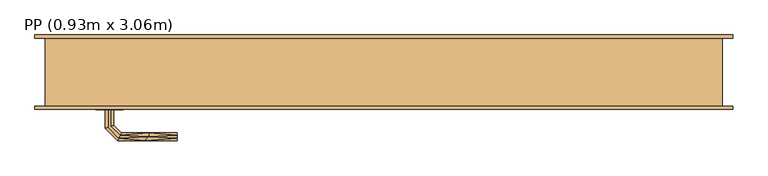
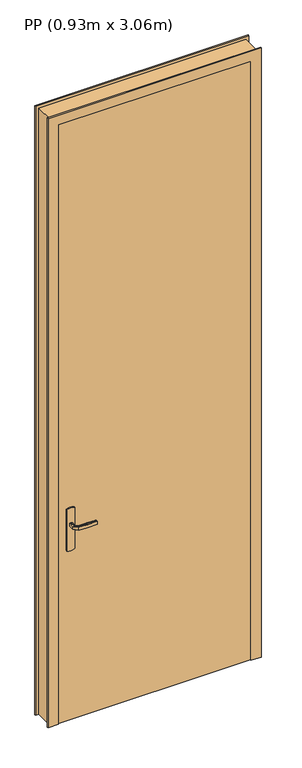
"""IFC4 building model written with IfcOpenShell, lengths in millimetres: door geometry, PP (0.93m x 3.06m)."""

from ifc_helpers import new_model, si_unit, frame, origin, origin_with_axes, place, context, project, spatial, polyline, outline, extrude, faceted_brep, source, transform, mapped, element, save


def pp_0_93m_x_3_06m_2ff7c40f(model_context):
    return source(origin(), model_context, "Body", "SolidModel", [
        extrude(outline(polyline([(35.0, 40.0), (965.0, 40.0), (965.0, 0.0), (35.0, 0.0), (35.0, 40.0)])), origin_with_axes(), (0.0, 0.0, 1.0), 3060.0),
        faceted_brep([(92.9747013, -5.0, 1007.7804408), (97.0252987, -5.0, 1007.7804408), (101.0, -5.0, 1007.0), (101.0, -5.0, 993.0), (97.0252987, -5.0, 992.2195592), (92.9747013, -5.0, 992.2195592), (89.0, -5.0, 993.0), (89.0, -5.0, 1007.0), (89.0, -32.6509507, 1007.0), (92.9747013, -31.0045755, 1007.7804408), (109.0235852, -47.0534593, 1007.7804408), (110.7013975, -43.002862, 1007.7804408), (97.0252987, -29.3267632, 1007.7804408), (101.0, -27.680388, 1007.0), (101.0, -27.680388, 993.0), (97.0252987, -29.3267632, 992.2195592), (110.7013975, -43.002862, 992.2195592), (109.0235852, -47.0534593, 992.2195592), (92.9747013, -31.0045755, 992.2195592), (89.0, -32.6509507, 993.0), (107.37721, -51.0281607, 1007.0), (112.3477727, -39.0281607, 1007.0), (112.3477727, -39.0281607, 993.0), (107.37721, -51.0281607, 993.0), (195.0186406, -51.0281607, 993.0), (195.0186406, -47.0534593, 992.2195592), (195.0186406, -43.002862, 992.2195592), (195.0186406, -39.0281607, 993.0), (195.0186406, -39.0281607, 1007.0), (195.0186406, -43.002862, 1007.7804408), (195.0186406, -47.0534593, 1007.7804408), (195.0186406, -51.0281607, 1007.0), (147.3076972, -51.0281607, 1007.0), (152.8600191, -45.0281607, 1007.8786868), (153.6832067, -39.0281607, 1007.0), (153.6832067, -39.0281607, 993.0), (152.8600189, -45.0281608, 992.1213132), (147.3077002, -51.0281607, 993.0)], [[[0, 1, 2, 3, 4, 5, 6, 7]], [[8, 9, 0, 7]], [[9, 10, 11, 12, 1, 0]], [[12, 13, 2, 1]], [[3, 2, 13, 14]], [[14, 15, 4, 3]], [[15, 16, 17, 18, 5, 4]], [[18, 19, 6, 5]], [[7, 6, 19, 8]], [[20, 10, 9, 8]], [[11, 21, 13, 12]], [[14, 13, 21, 22]], [[22, 16, 15, 14]], [[17, 23, 19, 18]], [[8, 19, 23, 20]], [[24, 25, 26, 27, 28, 29, 30, 31]], [[32, 30, 33]], [[31, 30, 32]], [[10, 20, 32]], [[33, 34, 11]], [[21, 11, 34]], [[34, 29, 28]], [[30, 29, 33]], [[29, 34, 33]], [[10, 32, 33]], [[10, 33, 11]], [[22, 21, 34, 28, 27, 35]], [[35, 26, 36]], [[37, 36, 25]], [[22, 35, 16]], [[35, 27, 26]], [[24, 37, 25]], [[23, 17, 37]], [[37, 17, 36]], [[17, 16, 36]], [[16, 35, 36]], [[25, 36, 26]], [[20, 23, 37, 24, 31, 32]]]),
        extrude(outline(polyline([(866.0039831, 105.3527618), (870.0, 115.0), (1080.0, 115.0), (1083.9960169, 105.3527618), (1085.3589838, 95.0), (1083.9960169, 84.6472382), (1080.0, 75.0), (870.0, 75.0), (866.0039831, 84.6472382), (864.6410162, 95.0), (866.0039831, 105.3527618)])), frame((0.0, -5.0, 0.0), z_axis=(0.0, 1.0, 0.0), x_axis=(0.0, 0.0, 1.0)), (0.0, 0.0, 1.0), 5.0),
        faceted_brep([(92.9747013, 45.0, 1007.7804408), (89.0, 45.0, 1007.0), (89.0, 45.0, 993.0), (92.9747013, 45.0, 992.2195592), (97.0252987, 45.0, 992.2195592), (101.0, 45.0, 993.0), (101.0, 45.0, 1007.0), (97.0252987, 45.0, 1007.7804408), (101.0, 67.4852045, 993.0), (101.0, 67.4852045, 1007.0), (97.0252987, 69.1315797, 1007.7804408), (110.8389062, 82.9451872, 1007.7804408), (109.1610938, 86.9957845, 1007.7804408), (92.9747013, 70.8093921, 1007.7804408), (89.0, 72.4557673, 1007.0), (89.0, 72.4557673, 993.0), (92.9747013, 70.8093921, 992.2195592), (109.1610938, 86.9957845, 992.2195592), (110.8389062, 82.9451872, 992.2195592), (97.0252987, 69.1315797, 992.2195592), (112.4852814, 78.9704859, 993.0), (112.4852814, 78.9704859, 1007.0), (107.5147186, 90.9704859, 1007.0), (107.5147186, 90.9704859, 993.0), (195.0457837, 78.9704859, 993.0), (195.0457837, 82.9451872, 992.2195592), (195.0457837, 86.9957845, 992.2195592), (195.0457837, 90.9704859, 993.0), (195.0457837, 90.9704859, 1007.0), (195.0457837, 86.9957845, 1007.7804408), (195.0457837, 82.9451872, 1007.7804408), (195.0457837, 78.9704859, 1007.0), (153.7655206, 78.9704859, 993.0), (153.7655325, 78.9704859, 1007.0), (152.9423449, 84.9704859, 1007.8786868), (147.4452058, 90.9704859, 1007.0), (147.4452043, 90.9704859, 993.0), (152.9423451, 84.9704858, 992.1213132)], [[[0, 1, 2, 3, 4, 5, 6, 7]], [[6, 5, 8, 9]], [[9, 10, 7, 6]], [[10, 11, 12, 13, 0, 7]], [[13, 14, 1, 0]], [[2, 1, 14, 15]], [[15, 16, 3, 2]], [[16, 17, 18, 19, 4, 3]], [[19, 8, 5, 4]], [[9, 8, 20, 21]], [[21, 11, 10, 9]], [[12, 22, 14, 13]], [[15, 14, 22, 23]], [[23, 17, 16, 15]], [[18, 20, 8, 19]], [[24, 25, 26, 27, 28, 29, 30, 31]], [[21, 20, 32, 24, 31, 33]], [[33, 30, 34]], [[35, 34, 29]], [[21, 33, 11]], [[33, 31, 30]], [[28, 35, 29]], [[22, 12, 35]], [[35, 12, 34]], [[12, 11, 34]], [[11, 33, 34]], [[29, 34, 30]], [[22, 35, 28, 27, 36, 23]], [[36, 26, 37]], [[27, 26, 36]], [[17, 23, 36]], [[37, 32, 18]], [[20, 18, 32]], [[32, 25, 24]], [[26, 25, 37]], [[25, 32, 37]], [[17, 36, 37]], [[17, 37, 18]]]),
        extrude(outline(polyline([(866.0039831, 105.3527618), (870.0, 115.0), (1080.0, 115.0), (1083.9960169, 105.3527618), (1085.3589838, 95.0), (1083.9960169, 84.6472382), (1080.0, 75.0), (870.0, 75.0), (866.0039831, 84.6472382), (864.6410162, 95.0), (866.0039831, 105.3527618)])), frame((0.0, 40.0, 0.0), z_axis=(0.0, 1.0, 0.0), x_axis=(0.0, 0.0, 1.0)), (0.0, 0.0, 1.0), 5.0),
        faceted_brep([(0.0, 100.0, 0.0), (-15.0, 100.0, 0.0), (-15.0, 105.0, 0.0), (50.0, 105.0, 0.0), (50.0, 40.0, 0.0), (35.0, 40.0, 0.0), (35.0, -5.0, 0.0), (-15.0, -5.0, 0.0), (-15.0, 0.0, 0.0), (0.0, 0.0, 0.0), (0.0, 100.0, 3095.0), (1000.0, 100.0, 3095.0), (1000.0, 100.0, 0.0), (1015.0, 100.0, 0.0), (1015.0, 100.0, 3110.0), (-15.0, 100.0, 3110.0), (-15.0, 105.0, 3110.0), (1015.0, 105.0, 3110.0), (1015.0, 105.0, 0.0), (950.0, 105.0, 0.0), (950.0, 105.0, 3045.0), (50.0, 105.0, 3045.0), (50.0, 40.0, 3045.0), (950.0, 40.0, 3045.0), (950.0, 40.0, 0.0), (965.0, 40.0, 0.0), (965.0, 40.0, 3060.0), (35.0, 40.0, 3060.0), (35.0, -5.0, 3060.0), (965.0, -5.0, 3060.0), (965.0, -5.0, 0.0), (1015.0, -5.0, 0.0), (1015.0, -5.0, 3110.0), (-15.0, -5.0, 3110.0), (-15.0, 0.0, 3110.0), (1015.0, 0.0, 3110.0), (1015.0, 0.0, 0.0), (1000.0, 0.0, 0.0), (1000.0, 0.0, 3095.0), (0.0, 0.0, 3095.0)], [[[0, 1, 2, 3, 4, 5, 6, 7, 8, 9]], [[1, 0, 10, 11, 12, 13, 14, 15]], [[2, 1, 15, 16]], [[3, 2, 16, 17, 18, 19, 20, 21]], [[3, 21, 22, 4]], [[5, 4, 22, 23, 24, 25, 26, 27]], [[5, 27, 28, 6]], [[7, 6, 28, 29, 30, 31, 32, 33]], [[8, 7, 33, 34]], [[9, 8, 34, 35, 36, 37, 38, 39]], [[0, 9, 39, 10]], [[11, 38, 37, 12]], [[12, 37, 36, 31, 30, 25, 24, 19, 18, 13]], [[17, 14, 13, 18]], [[23, 20, 19, 24]], [[29, 26, 25, 30]], [[35, 32, 31, 36]], [[16, 15, 14, 17]], [[22, 21, 20, 23]], [[28, 27, 26, 29]], [[34, 33, 32, 35]], [[10, 39, 38, 11]]]),
    ])


if __name__ == "__main__":
    model = new_model("IFC4")
    model_context = context("Model", 3, world=origin())
    ifc_project = project(units=[si_unit("LENGTHUNIT", "METRE", prefix="MILLI")], contexts=[model_context])
    site = spatial("IfcSite", under=ifc_project)
    building = spatial("IfcBuilding", under=site)
    placement = place(None, origin())
    pp_0_93m_x_3_06m_shape = pp_0_93m_x_3_06m_2ff7c40f(model_context)
    element("IfcDoor", 1, ObjectType="PP (0.93m x 3.06m)", at=placement, inside=building, context=model_context, shape_type="MappedRepresentation", body=[
        mapped(pp_0_93m_x_3_06m_shape, transform((0.0, 0.0, 0.0), x_axis=(1.0, 0.0, 0.0), y_axis=(0.0, 1.0, 0.0), z_axis=(0.0, 0.0, 1.0))),
    ])
    save(model, "model.ifc")
